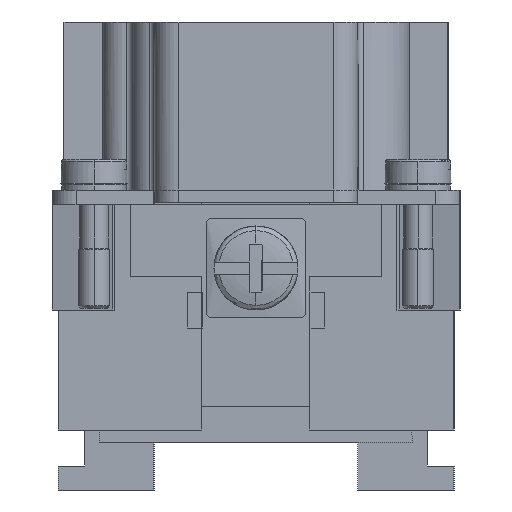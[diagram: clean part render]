
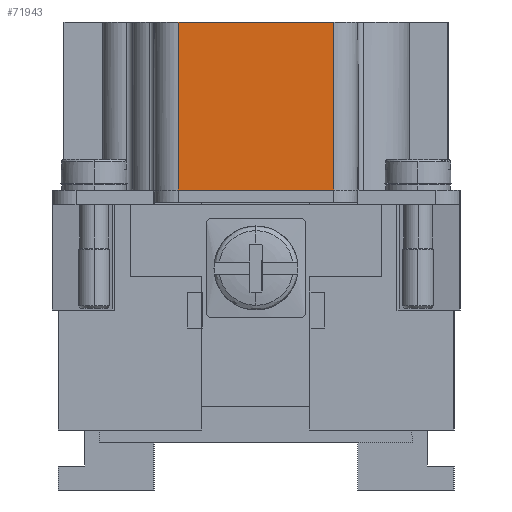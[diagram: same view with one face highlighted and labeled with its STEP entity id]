
A CAD part, left-side view. The second image highlights one B-rep face of the part: STEP entity #71943.
In plain terms, the highlighted planar face has unit normal (-1, 0, 0).
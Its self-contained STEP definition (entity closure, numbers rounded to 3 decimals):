
#2230 = CARTESIAN_POINT ( 'NONE',  ( -54.79, -2.15, 0. ) ) ;
#8049 = LINE ( 'NONE', #88784, #66650 ) ;
#8737 = DIRECTION ( 'NONE',  ( 0., 0., 1. ) ) ;
#14511 = ORIENTED_EDGE ( 'NONE', *, *, #90061, .F. ) ;
#14833 = CARTESIAN_POINT ( 'NONE',  ( -54.8, 6.5, 14. ) ) ;
#15655 = PLANE ( 'NONE',  #36564 ) ;
#16993 = CARTESIAN_POINT ( 'NONE',  ( -54.795, 6.475, 0. ) ) ;
#18446 = CARTESIAN_POINT ( 'NONE',  ( -54.8, 0., 14. ) ) ;
#18972 = CARTESIAN_POINT ( 'NONE',  ( -54.795, 6.475, 0. ) ) ;
#19625 = EDGE_CURVE ( 'NONE', #70868, #65833, #30194, .T. ) ;
#19648 = CARTESIAN_POINT ( 'NONE',  ( -54.8, -6.5, 14. ) ) ;
#24370 = CARTESIAN_POINT ( 'NONE',  ( -54.8, 0., 0. ) ) ;
#26756 = DIRECTION ( 'NONE',  ( 0., -1., 0. ) ) ;
#30194 = B_SPLINE_CURVE_WITH_KNOTS ( 'NONE', 3,
 ( #60447, #2230, #68836, #18972 ),
 .UNSPECIFIED., .F., .F.,
 ( 4, 4 ),
 ( 0., 1. ),
 .UNSPECIFIED. ) ;
#32711 = DIRECTION ( 'NONE',  ( 0., 0., 1. ) ) ;
#36117 = EDGE_LOOP ( 'NONE', ( #103641, #42283, #14511, #101977 ) ) ;
#36450 = EDGE_CURVE ( 'NONE', #41602, #70868, #8049, .T. ) ;
#36564 = AXIS2_PLACEMENT_3D ( 'NONE', #24370, #82620, #32711 ) ;
#41602 = VERTEX_POINT ( 'NONE', #19648 ) ;
#42283 = ORIENTED_EDGE ( 'NONE', *, *, #36450, .F. ) ;
#42910 = VERTEX_POINT ( 'NONE', #14833 ) ;
#47238 = DIRECTION ( 'NONE',  ( 0., 0., -1. ) ) ;
#50717 = LINE ( 'NONE', #83685, #67682 ) ;
#56759 = VECTOR ( 'NONE', #26756, 1000. ) ;
#60447 = CARTESIAN_POINT ( 'NONE',  ( -54.795, -6.475, 0. ) ) ;
#65833 = VERTEX_POINT ( 'NONE', #16993 ) ;
#66650 = VECTOR ( 'NONE', #47238, 1000. ) ;
#67682 = VECTOR ( 'NONE', #8737, 1000. ) ;
#68836 = CARTESIAN_POINT ( 'NONE',  ( -54.79, 2.15, 0. ) ) ;
#70868 = VERTEX_POINT ( 'NONE', #73660 ) ;
#71943 = ADVANCED_FACE ( 'NONE', ( #80737 ), #15655, .T. ) ;
#72004 = EDGE_CURVE ( 'NONE', #65833, #42910, #50717, .T. ) ;
#73660 = CARTESIAN_POINT ( 'NONE',  ( -54.795, -6.475, 0. ) ) ;
#80737 = FACE_OUTER_BOUND ( 'NONE', #36117, .T. ) ;
#82620 = DIRECTION ( 'NONE',  ( -1., 0., 0. ) ) ;
#83685 = CARTESIAN_POINT ( 'NONE',  ( -54.8, 6.5, 0. ) ) ;
#88784 = CARTESIAN_POINT ( 'NONE',  ( -54.8, -6.5, 0. ) ) ;
#90061 = EDGE_CURVE ( 'NONE', #42910, #41602, #101060, .T. ) ;
#101060 = LINE ( 'NONE', #18446, #56759 ) ;
#101977 = ORIENTED_EDGE ( 'NONE', *, *, #72004, .F. ) ;
#103641 = ORIENTED_EDGE ( 'NONE', *, *, #19625, .F. ) ;
